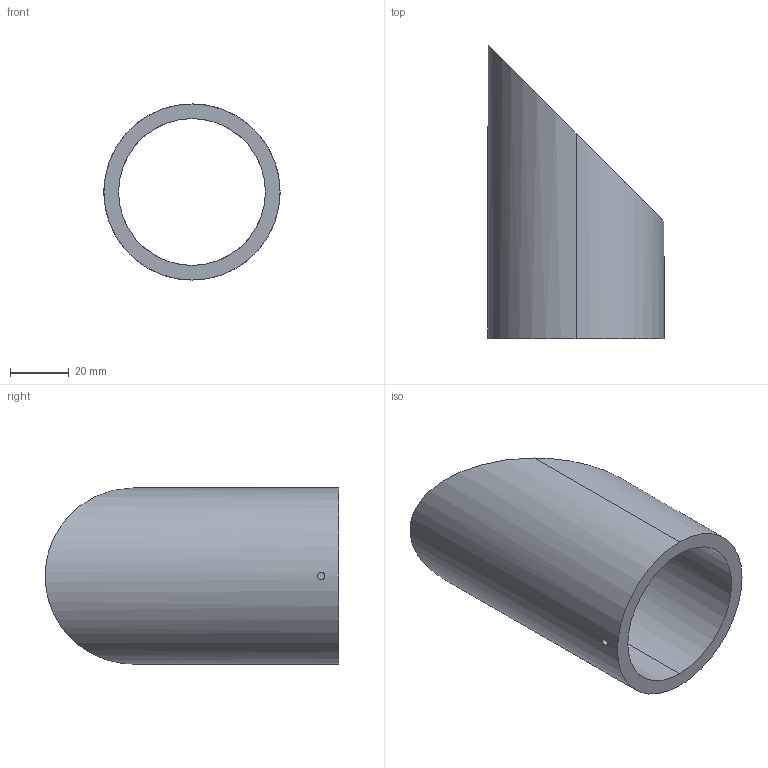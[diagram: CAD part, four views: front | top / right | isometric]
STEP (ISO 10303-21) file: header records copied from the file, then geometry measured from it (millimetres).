
FILE_DESCRIPTION (( 'STEP AP203' ), '1' );
FILE_NAME ('26579-10 - Paraluce Ø50 - Anodizzato nero lucido.STEP', '2021-06-09T10:14:46', ( '' ), ( '' ), 'SwSTEP 2.0', 'SolidWorks 2019', '' );
FILE_SCHEMA (( 'CONFIG_CONTROL_DESIGN' ));
Length unit declared in the file: millimetre
Products named in the file (1): 26579-10 - Paraluce Ø50 - Anodizzato nero lucido
Bounding box: 60 x 99.96 x 60 mm (x, y, z)
Volume: 60448.5 mm3; surface area: 26305.3 mm2
Topology: 1 solids, 1 shells, 8 faces, 18 edges, 12 vertices
Faces by surface type: cylinder 6, plane 2
Entity records: 379 total; most frequent: CARTESIAN_POINT 127, ORIENTED_EDGE 36, DIRECTION 32, EDGE_CURVE 18, AXIS2_PLACEMENT_3D 13, EDGE_LOOP 12, VERTEX_POINT 12, FACE_OUTER_BOUND 8
